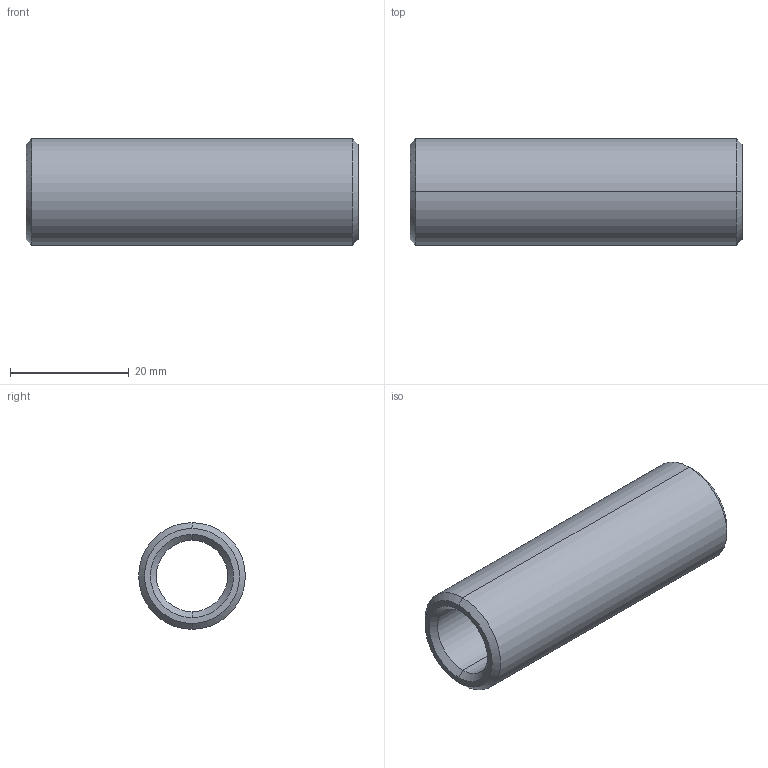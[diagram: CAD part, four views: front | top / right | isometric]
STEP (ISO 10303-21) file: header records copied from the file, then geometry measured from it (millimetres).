
FILE_DESCRIPTION(('CATIA V5 STEP Exchange'),'2;1');
FILE_NAME('C:\Users\Utente\Desktop\IO LAVORO\3D X SITO CF\X SITO\PLASTICA\352\352-12X56.stp','2021-04-10T09:22:32+00:00',('none'),('none'),'CATIA Version 5 Release 20 GA (IN-10)','CATIA V5 STEP AP203','none');
FILE_SCHEMA(('CONFIG_CONTROL_DESIGN'));
Length unit declared in the file: millimetre
Products named in the file (1): 352-12X56
Bounding box: 56 x 18 x 18 mm (x, y, z)
Volume: 7834.1 mm3; surface area: 5455.2 mm2
Topology: 1 solids, 1 shells, 14 faces, 44 edges, 32 vertices
Faces by surface type: cone 6, cylinder 4, plane 2, torus 2
Entity records: 634 total; most frequent: CARTESIAN_POINT 203, ORIENTED_EDGE 88, DIRECTION 64, EDGE_CURVE 44, AXIS2_PLACEMENT_3D 41, VERTEX_POINT 32, CIRCLE 26, EDGE_LOOP 16
